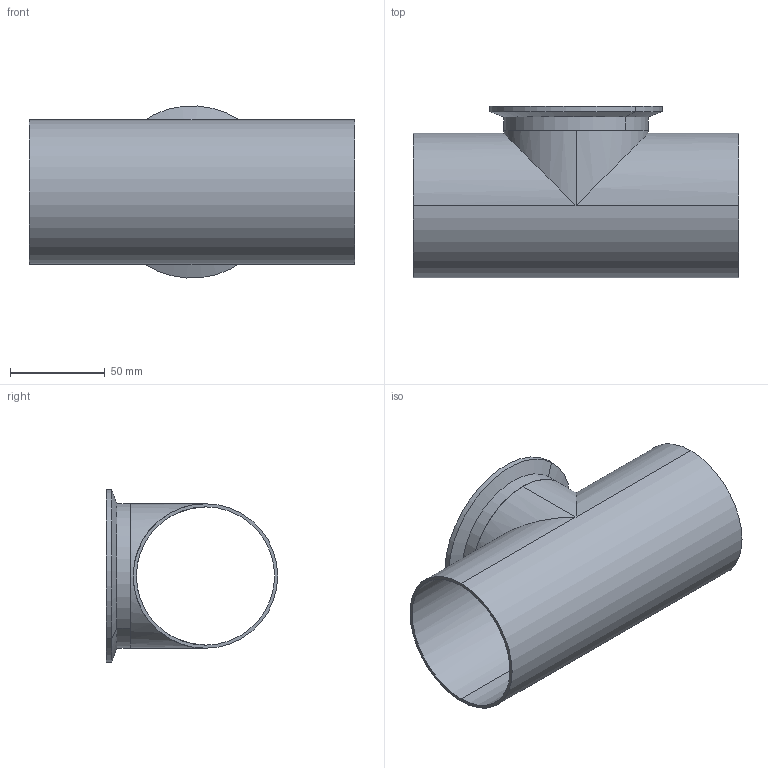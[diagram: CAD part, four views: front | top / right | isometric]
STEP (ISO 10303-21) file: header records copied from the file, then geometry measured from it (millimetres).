
FILE_DESCRIPTION (( 'STEP AP203' ), '1' );
FILE_NAME ('E7WWCS3.0.STEP', '2018-05-02T19:52:04', ( 'vneprd' ), ( 'Microsoft' ), 'SwSTEP 2.0', 'SolidWorks 2014', '' );
FILE_SCHEMA (( 'CONFIG_CONTROL_DESIGN' ));
Length unit declared in the file: inch
Products named in the file (3): EG2CS3.0; V7WS3.0; E7WWCS3.0
Assembly tree (2 placements, depth 2):
  E7WWCS3.0
    V7WS3.0
    EG2CS3.0
Bounding box: 171.45 x 90.42 x 90.75 mm (x, y, z)
Volume: 75550.7 mm3; surface area: 88237.7 mm2
Topology: 2 solids, 2 shells, 30 faces, 62 edges, 36 vertices
Faces by surface type: cylinder 16, plane 6, torus 6, cone 2
Entity records: 1119 total; most frequent: DIRECTION 166, CARTESIAN_POINT 145, ORIENTED_EDGE 124, AXIS2_PLACEMENT_3D 73, EDGE_CURVE 62, CIRCLE 38, VERTEX_POINT 36, EDGE_LOOP 36
